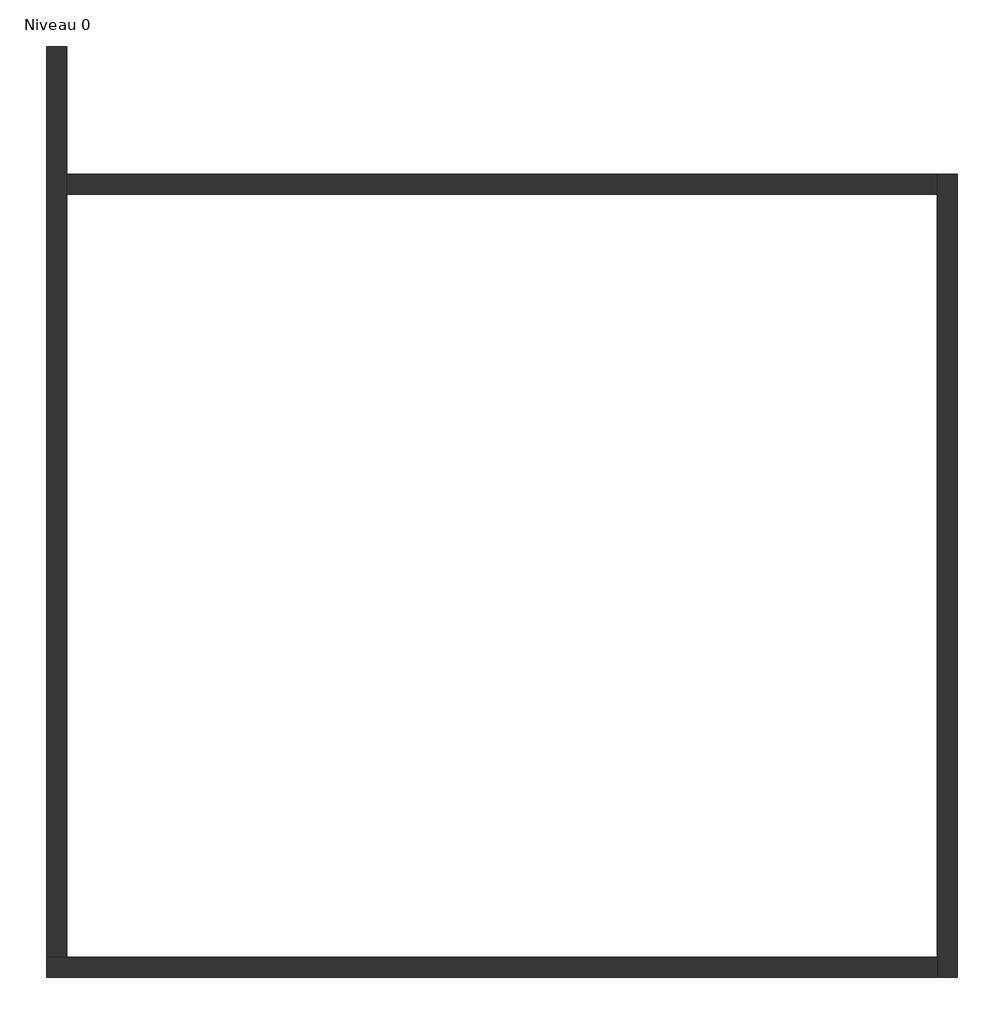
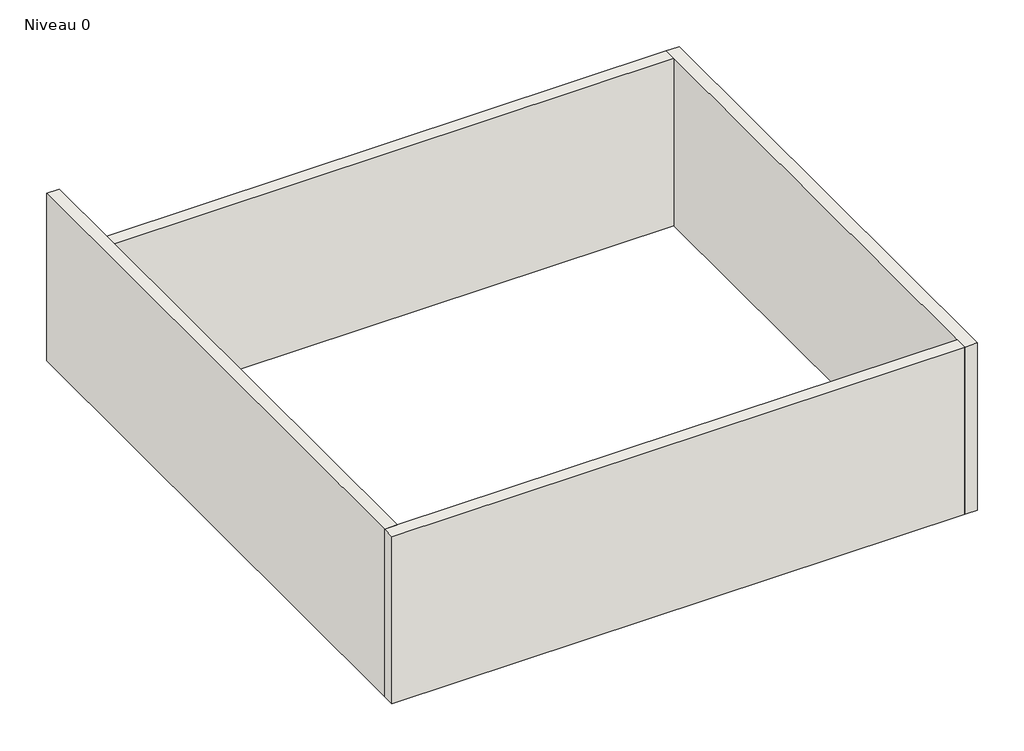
# One storey: 4 walls.
"""IFC4 building model written with IfcOpenShell, lengths in millimetres."""

from ifc_helpers import new_model, si_unit, origin, origin_with_axes, place, context, project, spatial, polyline, outline, extrude, faceted_brep, element, save

model = new_model("IFC4")

# Units and contexts
model_context = context("Model", 3, world=origin())
ifc_project = project(units=[si_unit("LENGTHUNIT", "METRE", prefix="MILLI")], contexts=[model_context])

# Site, building, storey
site = spatial("IfcSite", under=ifc_project)
building = spatial("IfcBuilding", under=site)
storey = spatial("IfcBuildingStorey", under=building, Name="Niveau 0", Elevation=0.0)

# Walls
placement = place(None, origin())
element("IfcWall", 1, ObjectType="Générique - Ext. 200 mm", at=placement, inside=storey, context=model_context, shape_type="SweptSolid", body=[
    extrude(outline(polyline([(-5184.5371846, 3668.2429904), (3515.4628154, 3668.2429904), (3515.4628154, 3468.2429904), (-5184.5371846, 3468.2429904), (-5184.5371846, 3668.2429904)])), origin_with_axes(), (0.0, 0.0, 1.0), 2750.0),
])
element("IfcWall", 2, ObjectType="Générique - Ext. 200 mm", at=placement, inside=storey, context=model_context, shape_type="Brep", body=[
    faceted_brep([(3715.4628154, -4358.406044, 0.0), (3715.4628154, 3668.2429904, 0.0), (3715.4628154, 3668.2429904, 2750.0), (3715.4628154, -4358.406044, 2750.0), (3515.4628154, -4358.406044, 0.0), (3515.4628154, -4358.406044, 2750.0), (3515.4628154, -4158.406044, 2750.0), (3515.4628154, 3468.2429904, 2750.0), (3515.4628154, 3668.2429904, 2750.0), (3515.4628154, 3668.2429904, 0.0), (3515.4628154, 3468.2429904, 0.0), (3515.4628154, -4158.406044, 0.0)], [[[0, 1, 2, 3]], [[4, 5, 6, 7, 8, 9, 10, 11]], [[1, 0, 4, 11, 10, 9]], [[3, 2, 8, 7, 6, 5]], [[0, 3, 5, 4]], [[2, 1, 9, 8]]]),
])
element("IfcWall", 3, ObjectType="Générique - Ext. 200 mm", at=placement, inside=storey, context=model_context, shape_type="Brep", body=[
    faceted_brep([(-5384.5371846, -4358.406044, 0.0), (3515.4628154, -4358.406044, 0.0), (3515.4628154, -4358.406044, 2750.0), (-5384.5371846, -4358.406044, 2750.0), (-5384.5371846, -4158.406044, 0.0), (-5384.5371846, -4158.406044, 2750.0), (-5184.5371846, -4158.406044, 2750.0), (3515.4628154, -4158.406044, 2750.0), (3515.4628154, -4158.406044, 0.0), (-5184.5371846, -4158.406044, 0.0)], [[[0, 1, 2, 3]], [[4, 5, 6, 7, 8, 9]], [[1, 0, 4, 9, 8]], [[3, 2, 7, 6, 5]], [[2, 1, 8, 7]], [[0, 3, 5, 4]]]),
])
element("IfcWall", 4, ObjectType="Générique - Ext. 200 mm", at=placement, inside=storey, context=model_context, shape_type="Brep", body=[
    faceted_brep([(-5384.5371846, 4941.593956, 0.0), (-5384.5371846, -4158.406044, 0.0), (-5384.5371846, -4158.406044, 2750.0), (-5384.5371846, 4941.593956, 2750.0), (-5184.5371846, 4941.593956, 0.0), (-5184.5371846, 4941.593956, 2750.0), (-5184.5371846, 3668.2429904, 2750.0), (-5184.5371846, 3468.2429904, 2750.0), (-5184.5371846, -4158.406044, 2750.0), (-5184.5371846, -4158.406044, 0.0), (-5184.5371846, 3468.2429904, 0.0), (-5184.5371846, 3668.2429904, 0.0)], [[[0, 1, 2, 3]], [[4, 5, 6, 7, 8, 9, 10, 11]], [[1, 0, 4, 11, 10, 9]], [[3, 2, 8, 7, 6, 5]], [[0, 3, 5, 4]], [[2, 1, 9, 8]]]),
])

save(model, "model.ifc")
